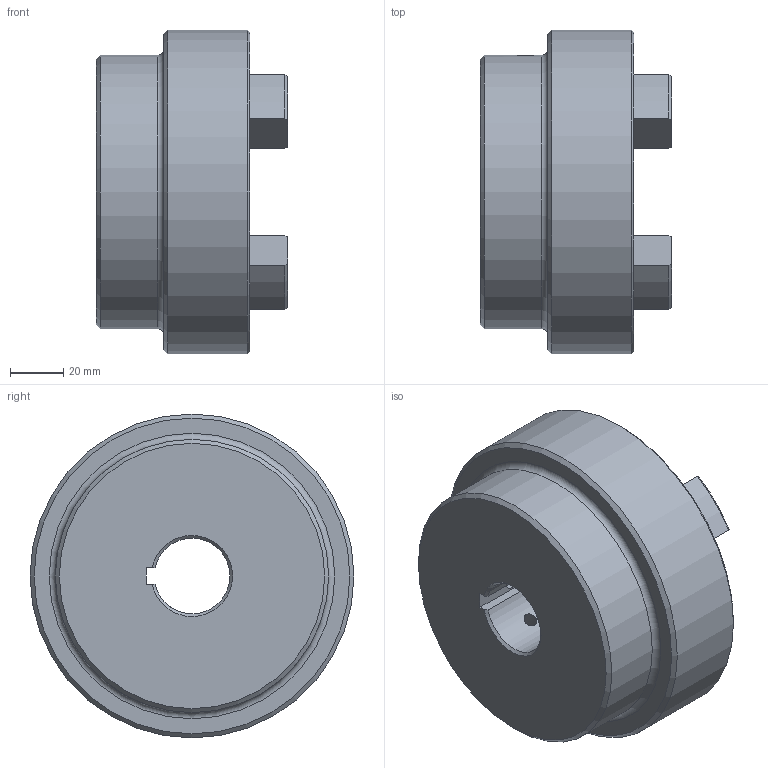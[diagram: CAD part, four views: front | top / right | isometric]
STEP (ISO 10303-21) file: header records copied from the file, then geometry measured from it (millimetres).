
FILE_DESCRIPTION (( 'STEP AP203' ), '1' );
FILE_NAME ('RC5.step', '2024-07-25T13:22:48', ( 'Adlan' ), ( '' ), 'SwSTEP 2.0', 'SolidWorks 2013', '' );
FILE_SCHEMA (( 'CONFIG_CONTROL_DESIGN' ));
Length unit declared in the file: inch
Products named in the file (1): RC5
Bounding box: 72.14 x 122.17 x 122.17 mm (x, y, z)
Volume: 450835.1 mm3; surface area: 59429.4 mm2
Topology: 1 solids, 1 shells, 83 faces, 210 edges, 131 vertices
Faces by surface type: cylinder 33, plane 19, torus 17, cone 14
Full cylindrical faces by diameter (mm): 5.105 x2, 103.124 x1, 122.174 x1
Entity records: 2759 total; most frequent: CARTESIAN_POINT 678, DIRECTION 446, ORIENTED_EDGE 394, EDGE_CURVE 197, AXIS2_PLACEMENT_3D 178, VERTEX_POINT 128, EDGE_LOOP 101, CIRCLE 94
